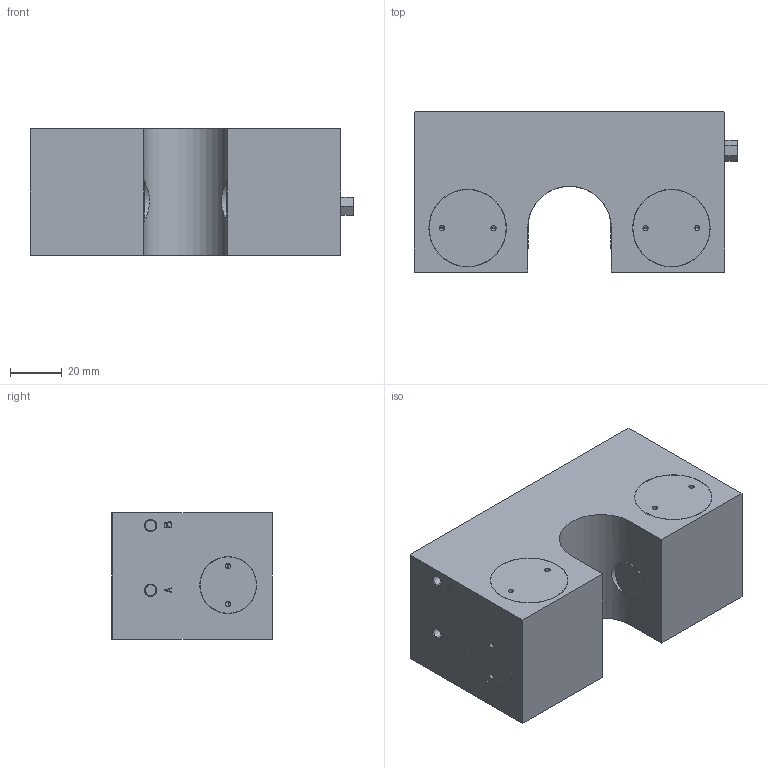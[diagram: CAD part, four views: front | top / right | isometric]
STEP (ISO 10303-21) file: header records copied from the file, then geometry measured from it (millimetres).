
FILE_DESCRIPTION( ( '' ), '1' );
FILE_NAME( 'E:/04 嬴檜蠱滌/0404 ZIMMER/040414 ZIMMER CAD download/MKR/MKR3200A.stp', '2020-04-16T10:10:14', ( '' ), ( '' ), ' ', ' ', ' ' );
FILE_SCHEMA( ( 'automotive_design' ) );
Length unit declared in the file: millimetre
Products named in the file (1): 1
Bounding box: 125 x 62 x 49 mm (x, y, z)
Volume: 313746 mm3; surface area: 38008.3 mm2
Topology: 1 solids, 2 shells, 184 faces, 426 edges, 264 vertices
Faces by surface type: plane 87, cylinder 65, cone 32
Entity records: 10132 total; most frequent: CARTESIAN_POINT 1049, DIRECTION 914, STYLED_ITEM 859, PRESENTATION_STYLE_ASSIGNMENT 859, COLOUR_RGB 859, ORIENTED_EDGE 820, EDGE_CURVE 410, CURVE_STYLE 410
